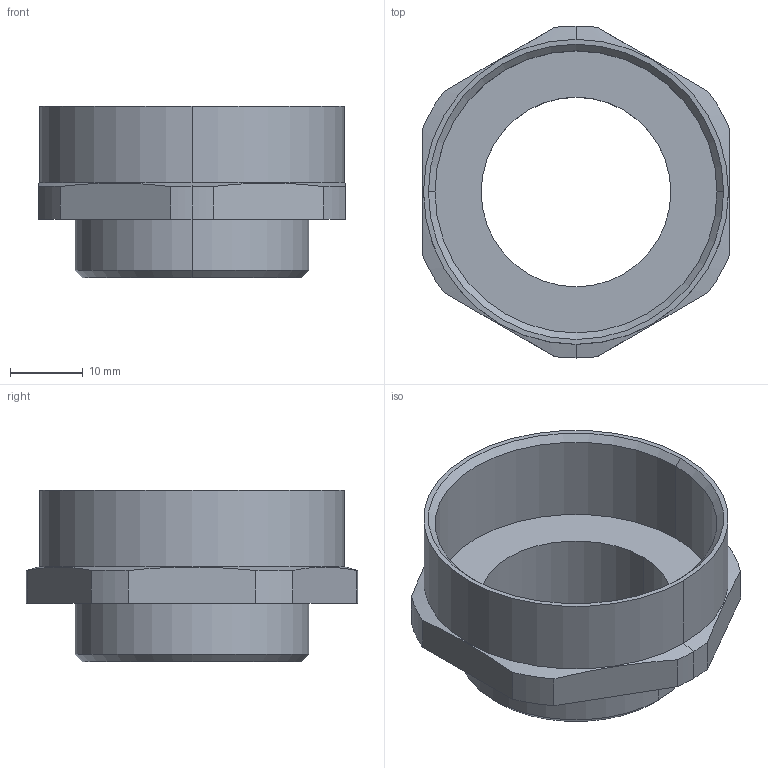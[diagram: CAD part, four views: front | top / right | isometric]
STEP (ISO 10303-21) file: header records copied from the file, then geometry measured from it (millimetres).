
FILE_DESCRIPTION (( 'STEP AP203' ), '1' );
FILE_NAME ('M32M40-FR.STEP', '2005-10-10T08:34:53', ( ' ' ), ( '' ), 'SwSTEP 2.0', 'SolidWorks 2005143', '' );
FILE_SCHEMA (( 'CONFIG_CONTROL_DESIGN' ));
Length unit declared in the file: millimetre
Products named in the file (1): M32M40-FR
Bounding box: 42 x 45.5 x 23.5 mm (x, y, z)
Volume: 7387.1 mm3; surface area: 7112 mm2
Topology: 1 solids, 1 shells, 68 faces, 176 edges, 115 vertices
Faces by surface type: plane 47, cylinder 15, cone 6
Entity records: 2154 total; most frequent: CARTESIAN_POINT 386, ORIENTED_EDGE 352, DIRECTION 343, EDGE_CURVE 176, LINE 135, VECTOR 135, VERTEX_POINT 115, AXIS2_PLACEMENT_3D 104
